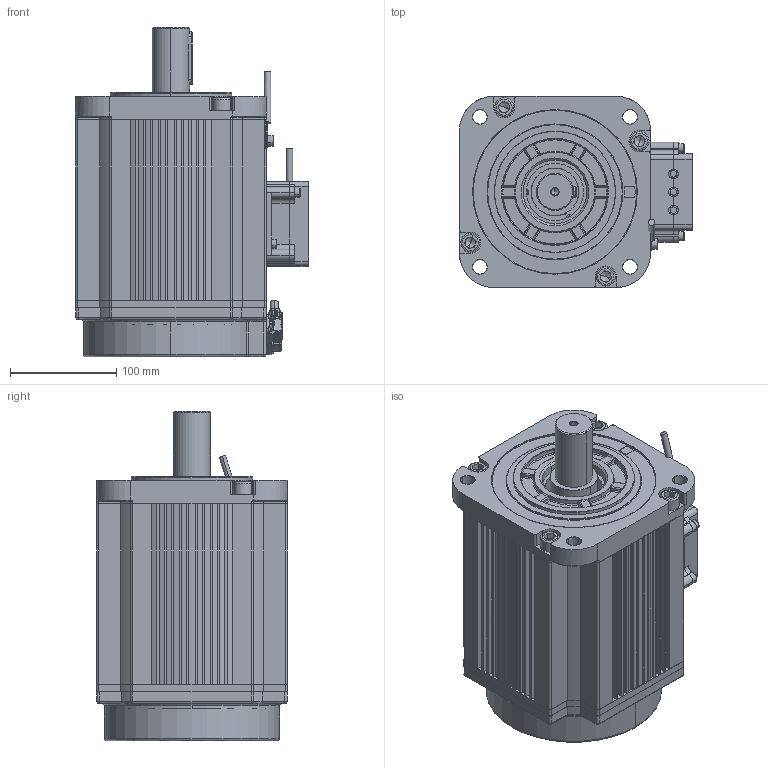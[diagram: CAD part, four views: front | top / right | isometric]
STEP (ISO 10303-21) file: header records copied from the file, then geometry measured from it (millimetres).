
FILE_DESCRIPTION (( 'STEP AP203' ), '1' );
FILE_NAME ('307091505SS（SMK180G-0500-20QBK-4GSA）-V1.0.STEP', '2025-01-06T11:46:27', ( 'wuyd' ), ( '' ), 'SwSTEP 2.0', 'SolidWorks 2023', '' );
FILE_SCHEMA (( 'CONFIG_CONTROL_DESIGN' ));
Products named in the file (1): 307091505SS（SMK180G-0500-20QBK-4GSA）-V1.0
Bounding box: 219.65 x 180 x 310.5 mm (x, y, z)
Volume: 1772331 mm3; surface area: 644360.8 mm2
Topology: 67 solids, 68 shells, 5608 faces, 14191 edges, 8740 vertices
Faces by surface type: plane 2696, cylinder 1590, torus 476, bspline 380, cone 362, sphere 104
Entity records: 187831 total; most frequent: CARTESIAN_POINT 55416, ORIENTED_EDGE 27890, DIRECTION 27079, EDGE_CURVE 13945, AXIS2_PLACEMENT_3D 9540, VERTEX_POINT 8740, LINE 7999, VECTOR 7999
